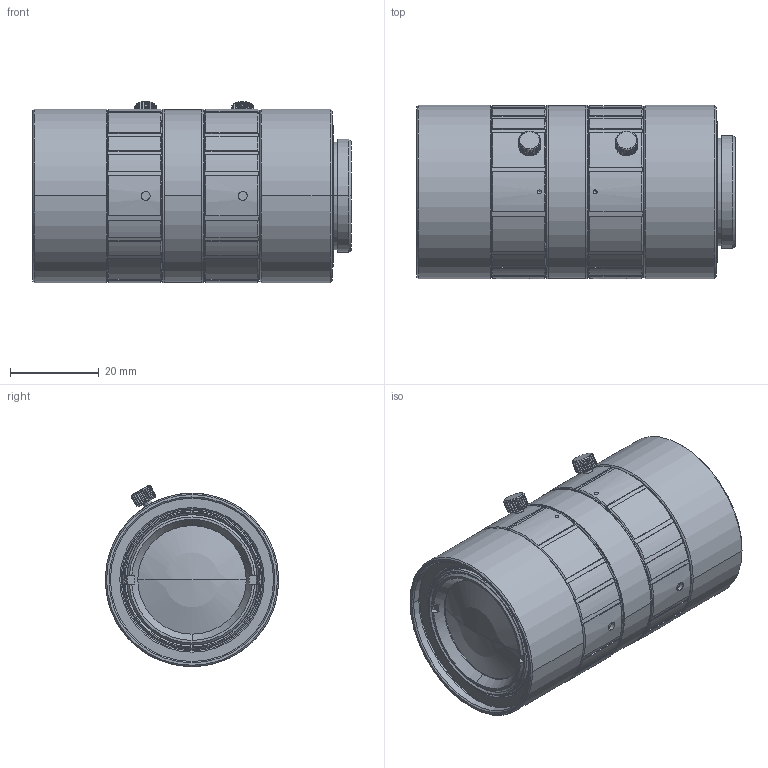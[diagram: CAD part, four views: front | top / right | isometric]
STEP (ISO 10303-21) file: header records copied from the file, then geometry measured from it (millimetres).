
FILE_DESCRIPTION(('CoCreate Modeling STEP Export'),'2;1');
FILE_NAME('CF16ZA-1S_3D.stp','2019-02-19T13:50:34',(''),(''),'CoCreate Modeling STEP processor for AP214 (Solid Model)','CoCreate Modeling 17.0B 09-Oct-2010 (C) Parametric Technology GmbH','');
FILE_SCHEMA(('AUTOMOTIVE_DESIGN { 1 0 10303 214 1 1 1 1 }'));
Length unit declared in the file: millimetre
Products named in the file (1): CF16ZA_3D外観図
Bounding box: 71.57 x 39 x 40.74 mm (x, y, z)
Volume: 79436 mm3; surface area: 12241.2 mm2
Topology: 1 solids, 3 shells, 393 faces, 1092 edges, 723 vertices
Faces by surface type: plane 209, cylinder 130, cone 52, sphere 2
Entity records: 18008 total; most frequent: CARTESIAN_POINT 6029, ORIENTED_EDGE 2172, DIRECTION 1602, EDGE_CURVE 1086, VERTEX_POINT 723, AXIS2_PLACEMENT_3D 619, EDGE_LOOP 421, B_SPLINE_CURVE_WITH_KNOTS 409
